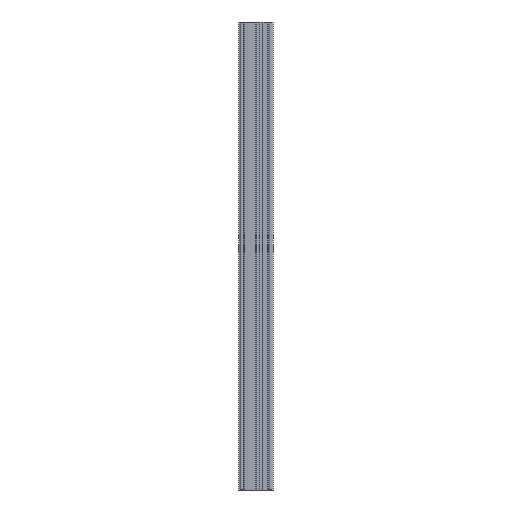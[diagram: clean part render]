
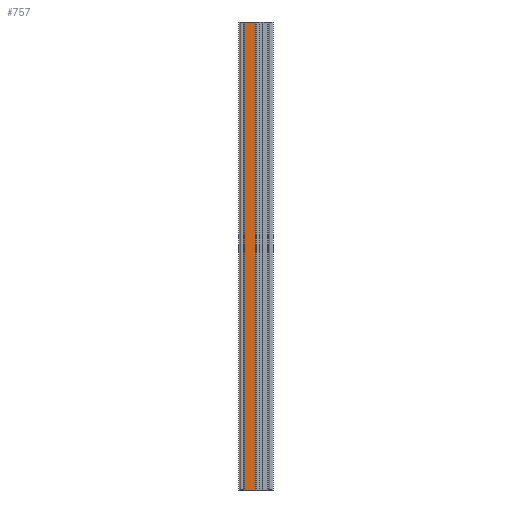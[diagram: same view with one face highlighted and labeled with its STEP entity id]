
A CAD part, left-side view. The second image highlights one B-rep face of the part: STEP entity #757.
In plain terms, the highlighted planar face has unit normal (-1, 0, 0).
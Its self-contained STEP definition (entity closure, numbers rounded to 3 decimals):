
#731 = VERTEX_POINT ( 'NONE', #7797 ) ;
#757 = ADVANCED_FACE ( 'NONE', ( #7648 ), #7647, .T. ) ;
#837 = EDGE_LOOP ( 'NONE', ( #838, #841, #844, #918 ) ) ;
#838 = ORIENTED_EDGE ( 'NONE', *, *, #839, .F. ) ;
#839 = EDGE_CURVE ( 'NONE', #840, #731, #4353, .T. ) ;
#840 = VERTEX_POINT ( 'NONE', #4349 ) ;
#841 = ORIENTED_EDGE ( 'NONE', *, *, #842, .F. ) ;
#842 = EDGE_CURVE ( 'NONE', #843, #840, #4348, .T. ) ;
#843 = VERTEX_POINT ( 'NONE', #4344 ) ;
#844 = ORIENTED_EDGE ( 'NONE', *, *, #917, .T. ) ;
#873 = EDGE_CURVE ( 'NONE', #874, #731, #4316, .T. ) ;
#874 = VERTEX_POINT ( 'NONE', #4312 ) ;
#917 = EDGE_CURVE ( 'NONE', #843, #874, #4418, .T. ) ;
#918 = ORIENTED_EDGE ( 'NONE', *, *, #873, .T. ) ;
#4312 = CARTESIAN_POINT ( 'NONE',  ( -40., 40.3, -549. ) ) ;
#4313 = DIRECTION ( 'NONE',  ( 0., 0., 1. ) ) ;
#4314 = VECTOR ( 'NONE', #4313, 1000. ) ;
#4315 = CARTESIAN_POINT ( 'NONE',  ( -40., 40.3, -549. ) ) ;
#4316 = LINE ( 'NONE', #4315, #4314 ) ;
#4344 = CARTESIAN_POINT ( 'NONE',  ( -40., 67.222, -549. ) ) ;
#4345 = DIRECTION ( 'NONE',  ( 0., 0., 1. ) ) ;
#4346 = VECTOR ( 'NONE', #4345, 1000. ) ;
#4347 = CARTESIAN_POINT ( 'NONE',  ( -40., 67.222, -549. ) ) ;
#4348 = LINE ( 'NONE', #4347, #4346 ) ;
#4349 = CARTESIAN_POINT ( 'NONE',  ( -40., 67.222, 549. ) ) ;
#4350 = DIRECTION ( 'NONE',  ( 0., -1., 0. ) ) ;
#4351 = VECTOR ( 'NONE', #4350, 1000. ) ;
#4352 = CARTESIAN_POINT ( 'NONE',  ( -40., 40.3, 549. ) ) ;
#4353 = LINE ( 'NONE', #4352, #4351 ) ;
#4415 = DIRECTION ( 'NONE',  ( 0., -1., 0. ) ) ;
#4416 = VECTOR ( 'NONE', #4415, 1000. ) ;
#4417 = CARTESIAN_POINT ( 'NONE',  ( -40., 40.3, -549. ) ) ;
#4418 = LINE ( 'NONE', #4417, #4416 ) ;
#7643 = DIRECTION ( 'NONE',  ( 0., -1., 0. ) ) ;
#7644 = DIRECTION ( 'NONE',  ( -1., 0., 0. ) ) ;
#7645 = CARTESIAN_POINT ( 'NONE',  ( -40., 40.3, -549. ) ) ;
#7646 = AXIS2_PLACEMENT_3D ( 'NONE', #7645, #7644, #7643 ) ;
#7647 = PLANE ( 'NONE',  #7646 ) ;
#7648 = FACE_OUTER_BOUND ( 'NONE', #837, .T. ) ;
#7797 = CARTESIAN_POINT ( 'NONE',  ( -40., 40.3, 549. ) ) ;
